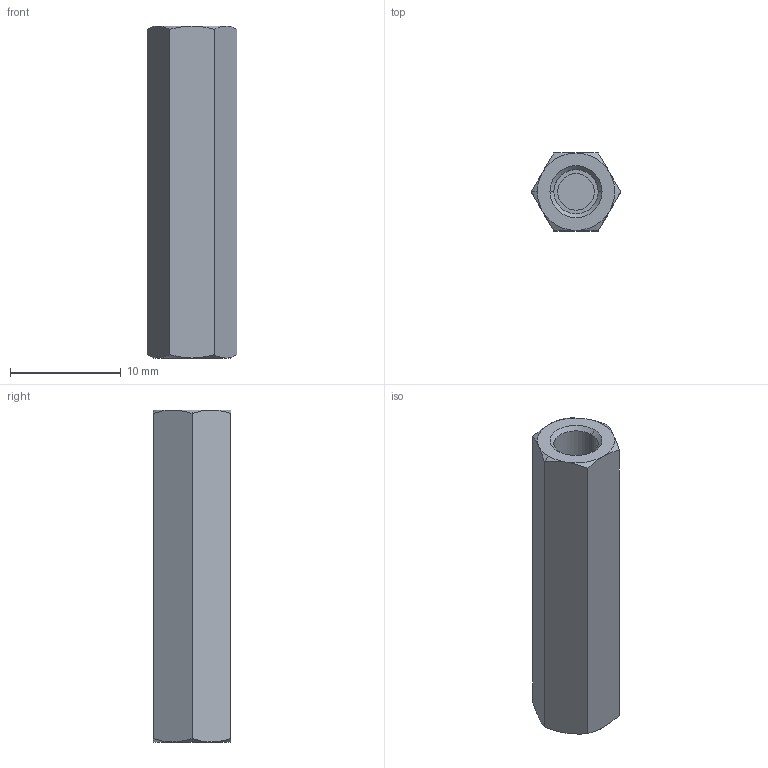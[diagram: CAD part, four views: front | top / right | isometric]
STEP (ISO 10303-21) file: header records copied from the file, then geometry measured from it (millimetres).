
FILE_DESCRIPTION (( 'STEP AP203' ), '1' );
FILE_NAME ('N0503.040-030-NP.step', '2025-02-27T14:43:10', ( '' ), ( '' ), 'SwSTEP 2.0', 'SolidWorks 2019', '' );
FILE_SCHEMA (( 'CONFIG_CONTROL_DESIGN' ));
Length unit declared in the file: millimetre
Products named in the file (1): N0503.040-030-NP
Bounding box: 8.08 x 7 x 30 mm (x, y, z)
Volume: 998.7 mm3; surface area: 1077.9 mm2
Topology: 1 solids, 1 shells, 39 faces, 82 edges, 47 vertices
Faces by surface type: cone 20, plane 11, cylinder 8
Entity records: 1145 total; most frequent: CARTESIAN_POINT 267, DIRECTION 170, ORIENTED_EDGE 160, EDGE_CURVE 80, AXIS2_PLACEMENT_3D 74, VERTEX_POINT 47, EDGE_LOOP 43, FACE_OUTER_BOUND 39
